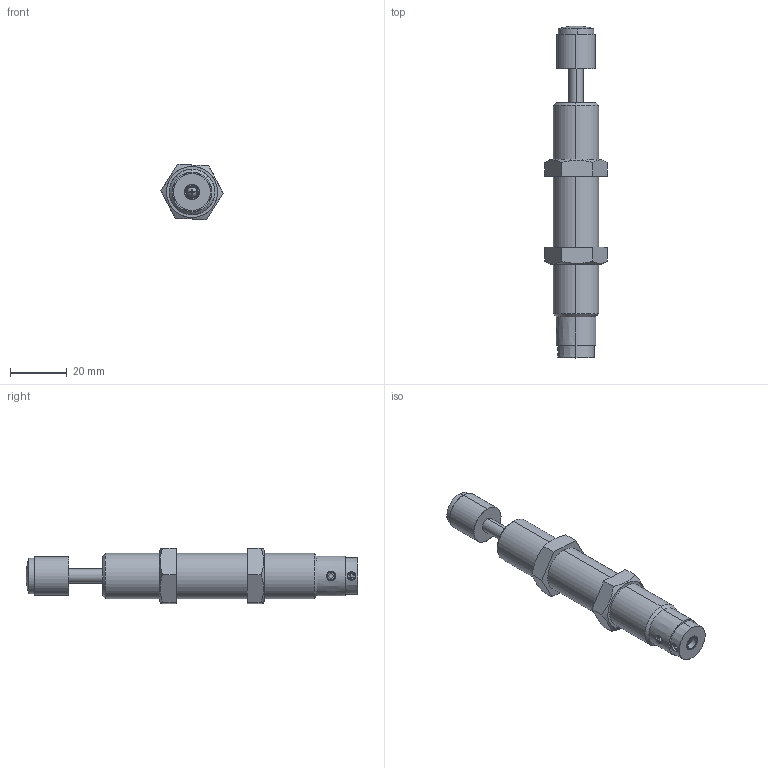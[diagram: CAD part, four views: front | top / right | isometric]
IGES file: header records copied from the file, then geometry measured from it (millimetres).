
Start section: SolidWorks IGES file using analytic representation for surfaces
Bounding box: 21.92 x 117 x 19.47 mm (x, y, z)
Surface area: 7806.3 mm2 (no closed solid volume)
Topology: 0 solids, 0 shells, 105 faces, 1606 edges, 1605 vertices
Faces by surface type: revolution 54, bspline 51
